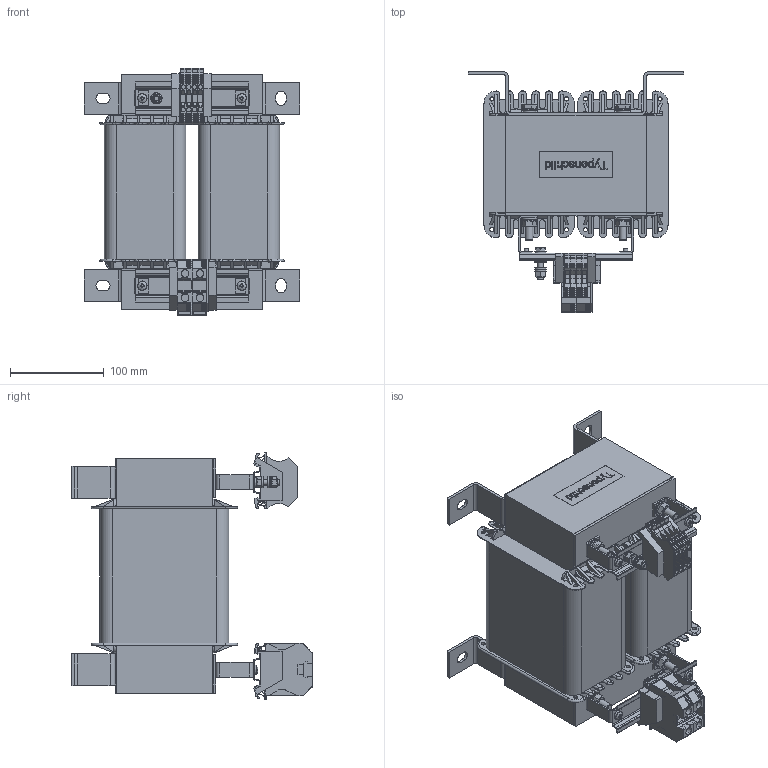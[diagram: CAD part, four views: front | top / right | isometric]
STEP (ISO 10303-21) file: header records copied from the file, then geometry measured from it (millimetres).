
FILE_DESCRIPTION(/* description */ (''),/* implementation_level */ '2;1');
FILE_NAME(/* name */ 'STZ4,0 230-950V_42V.stp',/* time_stamp */ '2023-09-05T12:53:38+02:00',/* author */ ('EnneJ'),/* organization */ (''),/* preprocessor_version */ 'ST-DEVELOPER v19.2',/* originating_system */ 'Autodesk Inventor 2023',/* authorisation */ '');
FILE_SCHEMA (('AUTOMOTIVE_DESIGN { 1 0 10303 214 3 1 1 }'));
Products named in the file (26): X0001 STZ groß 002; 1050000000_09214_WAP_2.5-10_STP; 1050100000_09288_WAP_16+35_WTW_2.5-10_BL_STP; 0383560000_12723_EW_35_STP; Leistungsschild 78x28; Norm (DIN); Standard (mm); UI 150 Pressspan; UI150; Arzner Gr 8; Norm (DIN)_1; UI150_103_oD_1Kammer_1; DIN 125 - A 8,4; ISO 4032 - M8; M8-140; Standard (mm)_1; WDU Schiene EI84; Standard (mm)_2; WDU Schiene EI84_1; Bauteil2; DIN 7985 (Z) - M5x6-Z; ISO 4014 - M6 x 30; DIN 125 - A 6,4; ISO 4034 - M6; WDU4; WDU_35_IK__1020600000
Assembly tree (70 placements, depth 3):
  X0001 STZ groß 002
    WDU4  x4
    WDU_35_IK__1020600000  x2
    1050000000_09214_WAP_2.5-10_STP
    1050100000_09288_WAP_16+35_WTW_2.5-10_BL_STP
    0383560000_12723_EW_35_STP  x4
    Leistungsschild 78x28
    Norm (DIN)
    UI 150 Pressspan  x4
    Standard (mm)  x2
    UI150  x2
    Arzner Gr 8  x7
    DIN 125 - A 8,4  x9
    Norm (DIN)_1  x2
    UI150_103_oD_1Kammer_1  x2
    ISO 4032 - M8  x4
    M8-140  x4
    Standard (mm)_1
      WDU Schiene EI84
      Bauteil2  x2
      DIN 7985 (Z) - M5x6-Z  x2
    Standard (mm)_2
      WDU Schiene EI84_1
      Bauteil2  x2
      DIN 7985 (Z) - M5x6-Z  x2
      ISO 4014 - M6 x 30
      DIN 125 - A 6,4  x5
      ISO 4034 - M6  x2
Bounding box: 230 x 257 x 264 mm (x, y, z)
Volume: 5333325.3 mm3; surface area: 972370.3 mm2
Topology: 68 solids, 68 shells, 4423 faces, 12075 edges, 7892 vertices
Faces by surface type: plane 2880, cylinder 1212, bspline 180, torus 76, cone 71, sphere 4
Full cylindrical faces by diameter (mm): 4.134 x4, 4.5 x20, 4.6 x4, 4.725 x8, 4.917 x2, 5 x4, 6 x1, 6.4 x5, 6.5 x1, 6.647 x4, 8 x4, 8.1 x7, 8.25 x4, 8.4 x9, 8.88 x1, 9.8 x7, 10.2 x4, 11 x20, 11.63 x4, 12 x5, 14 x7, 16 x9
Entity records: 65114 total; most frequent: CARTESIAN_POINT 14687, ORIENTED_EDGE 10508, DIRECTION 9990, EDGE_CURVE 5254, LINE 3872, VECTOR 3872, VERTEX_POINT 3426, AXIS2_PLACEMENT_3D 3059
